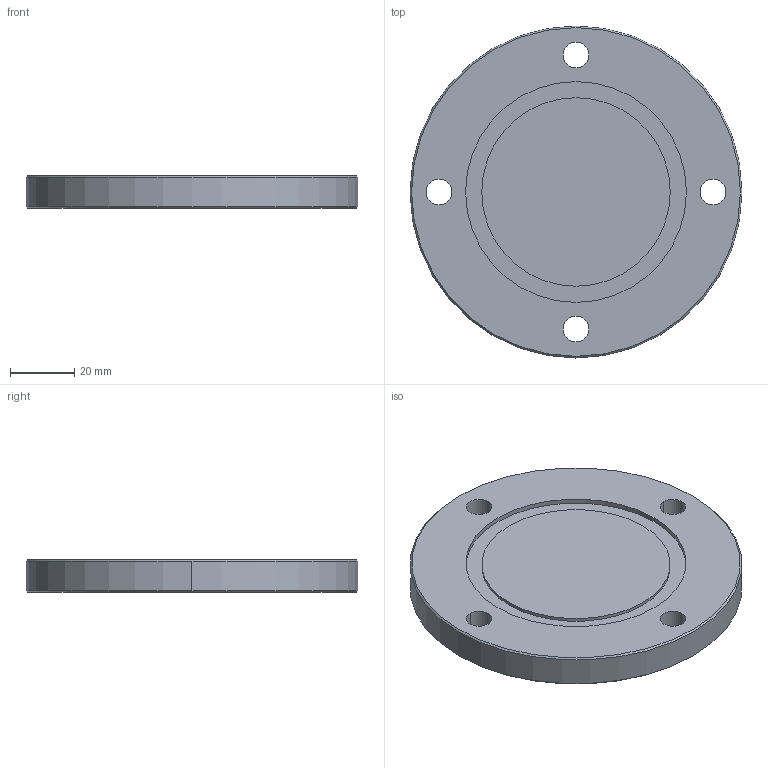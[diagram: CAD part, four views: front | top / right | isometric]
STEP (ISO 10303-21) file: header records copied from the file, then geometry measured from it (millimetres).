
FILE_DESCRIPTION (( 'STEP AP203' ), '1' );
FILE_NAME ('3D_R712_DN60.3_168071140.STEP', '2024-08-08T11:34:23', ( '' ), ( '' ), 'SwSTEP 2.0', 'SolidWorks 2024', '' );
FILE_SCHEMA (( 'CONFIG_CONTROL_DESIGN' ));
Length unit declared in the file: millimetre
Products named in the file (1): 3D_R712_DN60.3_168071140
Bounding box: 103 x 103 x 10 mm (x, y, z)
Volume: 78391.5 mm3; surface area: 20820 mm2
Topology: 1 solids, 1 shells, 22 faces, 50 edges, 32 vertices
Faces by surface type: cylinder 14, cone 4, plane 4
Entity records: 727 total; most frequent: DIRECTION 128, CARTESIAN_POINT 105, ORIENTED_EDGE 100, AXIS2_PLACEMENT_3D 55, EDGE_CURVE 50, CIRCLE 32, EDGE_LOOP 32, VERTEX_POINT 32
